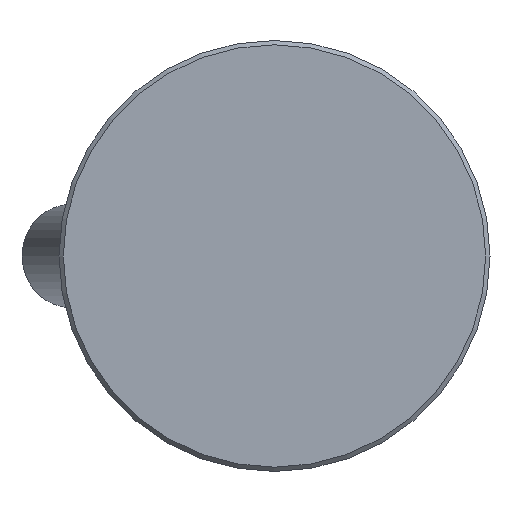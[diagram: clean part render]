
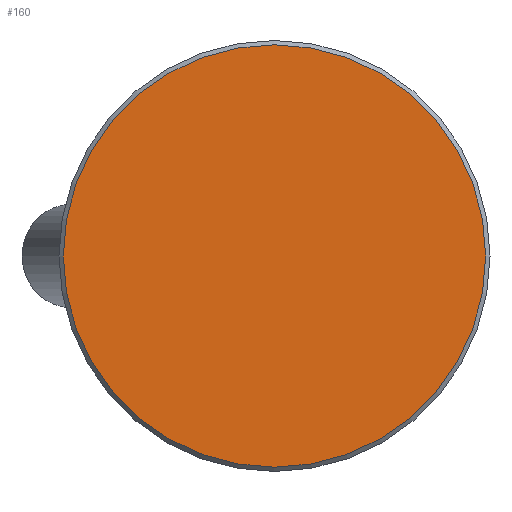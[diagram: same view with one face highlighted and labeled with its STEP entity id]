
A CAD part, front view. The second image highlights one B-rep face of the part: STEP entity #160.
In plain terms, the highlighted planar face has unit normal (0, -1, 0).
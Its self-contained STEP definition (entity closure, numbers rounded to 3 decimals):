
#160 = ADVANCED_FACE( '', ( #323 ), #324, .F. );
#323 = FACE_OUTER_BOUND( '', #519, .T. );
#324 = PLANE( '', #520 );
#519 = EDGE_LOOP( '', ( #750 ) );
#520 = AXIS2_PLACEMENT_3D( '', #751, #752, #753 );
#750 = ORIENTED_EDGE( '', *, *, #1139, .T. );
#751 = CARTESIAN_POINT( '', ( 24.5, 0., 0. ) );
#752 = DIRECTION( '', ( 0., 1., 0. ) );
#753 = DIRECTION( '', ( 0., 0., 1. ) );
#1139 = EDGE_CURVE( '', #1326, #1326, #1327, .T. );
#1326 = VERTEX_POINT( '', #1647 );
#1327 = CIRCLE( '', #1648, 24.5 );
#1647 = CARTESIAN_POINT( '', ( 0., 0., -24.5 ) );
#1648 = AXIS2_PLACEMENT_3D( '', #2014, #2015, #2016 );
#2014 = CARTESIAN_POINT( '', ( 0., 0., 0. ) );
#2015 = DIRECTION( '', ( 0., -1., 0. ) );
#2016 = DIRECTION( '', ( 0., 0., -1. ) );
